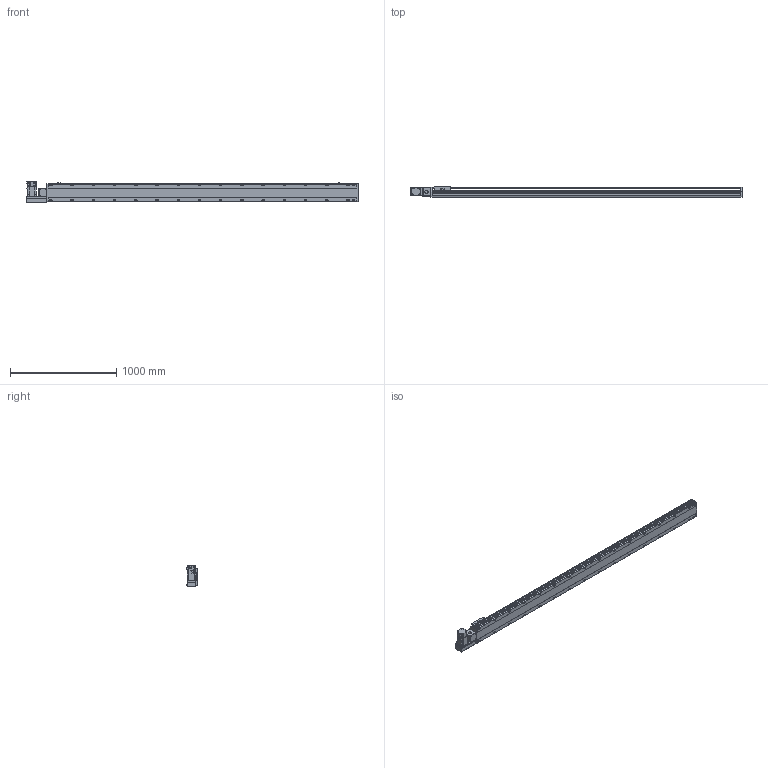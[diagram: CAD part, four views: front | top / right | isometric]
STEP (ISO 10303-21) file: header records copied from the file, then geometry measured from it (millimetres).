
FILE_DESCRIPTION( ( 'STEP AP214' ), '1' );
FILE_NAME( 'x:/temp/worker_1/temp/exporttempdir_5824_202_D6oTJ/format_0/PBS170-P40-S2650-L-T75-C1-N(0).stp', '2022-06-07T06:59:00', ( 'License CC BY-ND 4.0' ), ( 'CADENAS' ), ' ', 'PARTsolutions', ' ' );
FILE_SCHEMA( ( 'AUTOMOTIVE_DESIGN { 1 0 10303 214 1 1 1 1 }' ) );
Length unit declared in the file: millimetre
Products named in the file (7): PBS170-P40-S2650-L-T75-C1-N(0); _PBS170-S2650()_body; _PBS170T-L_motors; _T75-p1; _PBS170_sliser; _PBS170_plant; _PBS170_sensor
Assembly tree (8 placements, depth 2):
  PBS170-P40-S2650-L-T75-C1-N(0)
    _PBS170-S2650()_body
    _PBS170T-L_motors
    _T75-p1
    _PBS170_sliser
    _PBS170_plant
    _PBS170_sensor  x3
Bounding box: 3128 x 97 x 197.3 mm (x, y, z)
Volume: 22744427.1 mm3; surface area: 2859692.9 mm2
Topology: 8 solids, 8 shells, 1210 faces, 3195 edges, 2082 vertices
Faces by surface type: plane 735, cylinder 403, cone 62, sphere 8, torus 2
Full cylindrical faces by diameter (mm): 3.242 x4, 4 x2, 4.4 x4, 4.5 x6, 4.917 x4, 6 x9, 6.647 x40, 7 x2, 7.5 x4, 8 x8, 8.5 x32, 10 x4, 10.5 x32, 11 x2, 30 x2, 40 x1, 70 x1
Entity records: 44876 total; most frequent: CARTESIAN_POINT 7565, DIRECTION 5860, ORIENTED_EDGE 5508, EDGE_CURVE 2754, AXIS2_PLACEMENT_3D 2077, VERTEX_POINT 1922, LINE 1706, VECTOR 1706
